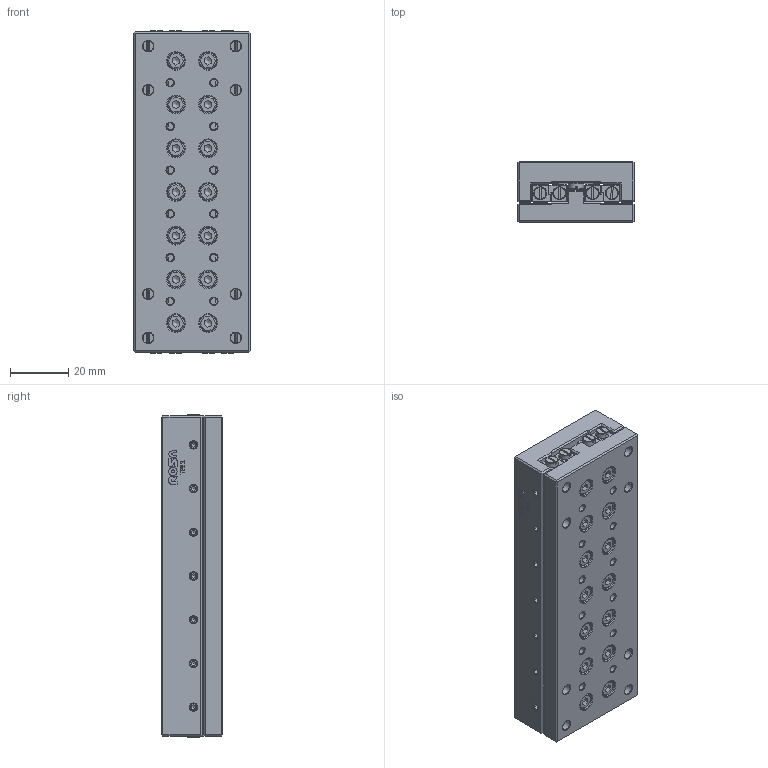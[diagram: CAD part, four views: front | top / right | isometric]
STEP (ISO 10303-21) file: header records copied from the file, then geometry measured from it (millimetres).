
FILE_DESCRIPTION(/* description */ ('Tavola TRL02 L=110 mm'),/* implementation_level */ '2;1');
FILE_NAME(/* name */ 'TRL020110-00.stp',/* time_stamp */ '2024-01-31T08:40:58+01:00',/* author */ ('Rosa sistemi'),/* organization */ (''),/* preprocessor_version */ 'ST-DEVELOPER v20',/* originating_system */ 'Autodesk Inventor 2024',/* authorisation */ '');
FILE_SCHEMA (('AUTOMOTIVE_DESIGN { 1 0 10303 214 3 1 1 }'));
Products named in the file (2): TRL020110-00; TRL020110-00_1
Assembly tree (1 placements, depth 2):
  TRL020110-00
    TRL020110-00_1
Bounding box: 40 x 21 x 110.6 mm (x, y, z)
Volume: 83031.9 mm3; surface area: 36995.4 mm2
Topology: 15 solids, 15 shells, 1992 faces, 5152 edges, 3338 vertices
Faces by surface type: plane 1273, cylinder 272, cone 219, bspline 156, torus 72
Full cylindrical faces by diameter (mm): 0.774 x4, 1.039 x1, 2 x5, 2.128 x4, 2.459 x40, 2.856 x1, 3 x28, 3.5 x8, 4.4 x28, 5.5 x28, 6 x36
Entity records: 62606 total; most frequent: CARTESIAN_POINT 13420, ORIENTED_EDGE 10234, DIRECTION 9398, EDGE_CURVE 5117, VERTEX_POINT 3338, LINE 3172, VECTOR 3172, AXIS2_PLACEMENT_3D 3113
